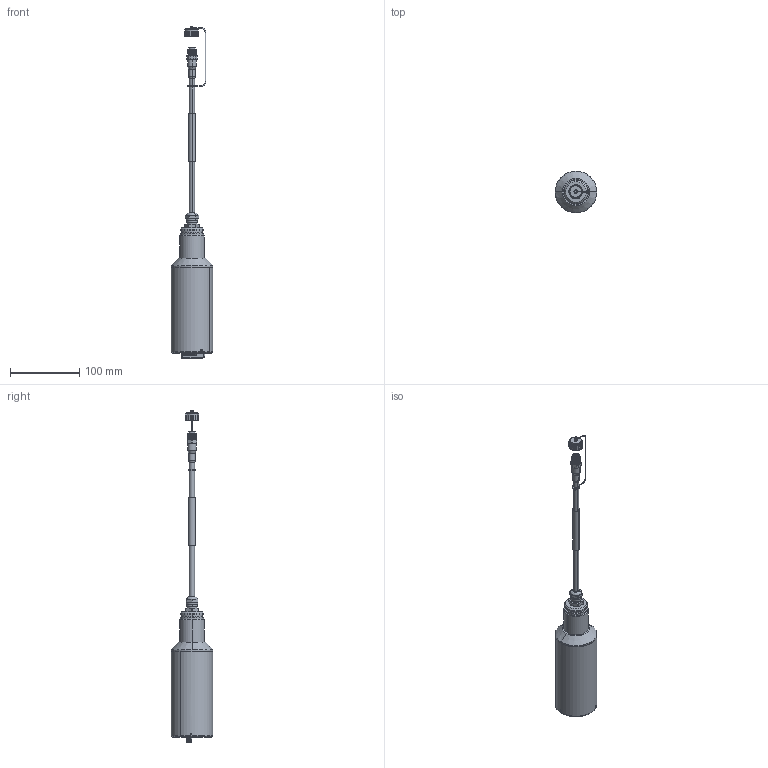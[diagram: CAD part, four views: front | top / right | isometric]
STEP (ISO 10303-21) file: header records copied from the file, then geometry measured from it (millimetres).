
FILE_DESCRIPTION (( 'STEP AP214' ), '1' );
FILE_NAME ('LXV423_TD_00000__001.STEP', '2012-09-11T12:05:50', ( 'helpdesk' ), ( 'Hach-Lange' ), 'SwSTEP 2.0', 'SolidWorks 2012', '' );
FILE_SCHEMA (( 'AUTOMOTIVE_DESIGN' ));
Length unit declared in the file: millimetre
Products named in the file (22): ZCA529L2_Sondenkabel mit Ferrit; XMG940_Rastgabel, Schwarz; XLU081_Schrumpfschlauch Typ PLG, 9,5 x 0,6 transparent_70mm; XMG812_Buchsengehäuse MODU IV, 6-polig 2-reihig Raster 2,54 mm; XMG872_Schutzkappe; XMG872#3_Schutzkappe; XMG872#2_Schutzkappe; XMG872#1_Schutzkappe; YYL111_Kabelverschraubung; XLT717_Kabelverschraubung M16x1.5V4A; XLT717#3_Kabelverschraubung M16x1.5V4A; XLT717#2_Kabelverschraubung M16x1.5V4A; XLT717#1_Kabelverschraubung M16x1.5V4A; ZCA789_Sondenkabel, Universell; Socket Set Screw Cup Point_ISO_ISO 4029 - M4 x 4-N; Socket Set Screw Dog Point_ISO_ISO 4028 - M2 x 6-N; LXG423.TD.#005_Wischergummi; LXG423.TD.#004_Wischerblattaufnahme; LXG423.TD.#003_Optikträger; LXG423.TD.#001_Sondenhülse; LXG423.TD.#002_Sondendeckel; LXV423_TD_00000__001
Assembly tree (23 placements, depth 5):
  LXV423_TD_00000__001
    LXG423.TD.#002_Sondendeckel
    LXG423.TD.#001_Sondenhülse
    LXG423.TD.#003_Optikträger
    LXG423.TD.#004_Wischerblattaufnahme
    LXG423.TD.#005_Wischergummi
    Socket Set Screw Dog Point_ISO_ISO 4028 - M2 x 6-N  x3
    Socket Set Screw Cup Point_ISO_ISO 4029 - M4 x 4-N
    ZCA529L2_Sondenkabel mit Ferrit
      ZCA789_Sondenkabel, Universell
      YYL111_Kabelverschraubung
        XLT717_Kabelverschraubung M16x1.5V4A
          XLT717#1_Kabelverschraubung M16x1.5V4A
          XLT717#2_Kabelverschraubung M16x1.5V4A
          XLT717#3_Kabelverschraubung M16x1.5V4A
      XMG872_Schutzkappe
        XMG872#1_Schutzkappe
        XMG872#2_Schutzkappe
        XMG872#3_Schutzkappe
      XMG812_Buchsengehäuse MODU IV, 6-polig 2-reihig Raster 2,54 mm
      XLU081_Schrumpfschlauch Typ PLG, 9,5 x 0,6 transparent_70mm
      XMG940_Rastgabel, Schwarz
Bounding box: 60.3 x 60.3 x 480.84 mm (x, y, z)
Volume: 182202.5 mm3; surface area: 96665.5 mm2
Topology: 25 solids, 25 shells, 755 faces, 1823 edges, 1158 vertices
Faces by surface type: plane 347, cylinder 254, bspline 74, cone 64, torus 16
Entity records: 26504 total; most frequent: CARTESIAN_POINT 8397, ORIENTED_EDGE 3474, DIRECTION 3455, EDGE_CURVE 1737, AXIS2_PLACEMENT_3D 1267, VERTEX_POINT 1114, VECTOR 921, LINE 921
